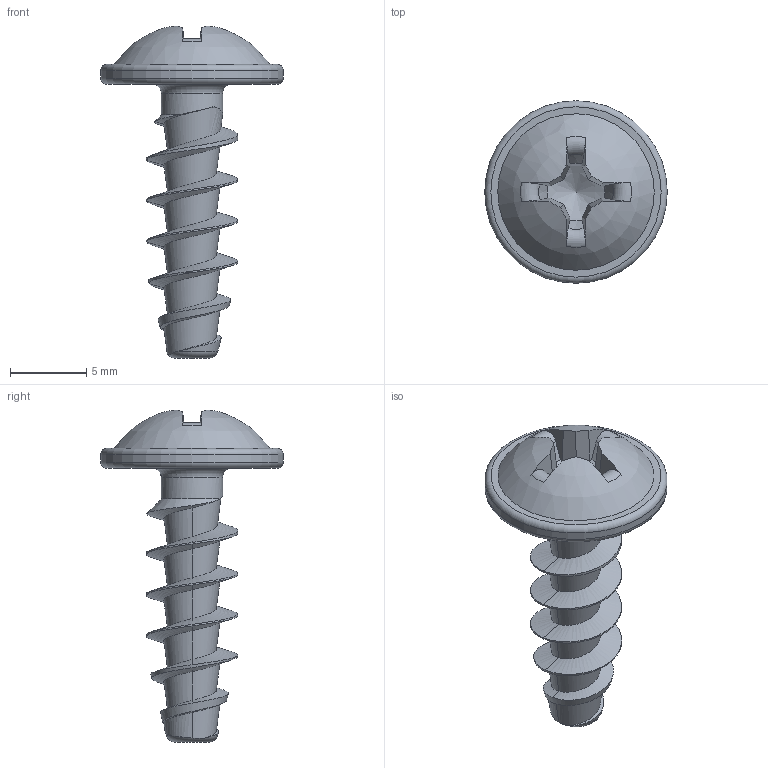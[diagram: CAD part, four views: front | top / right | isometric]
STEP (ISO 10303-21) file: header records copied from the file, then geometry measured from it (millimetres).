
FILE_DESCRIPTION(/* description */ (''),/* implementation_level */ '2;1');
FILE_NAME(/* name */ 'KN1031-Neu-STS-60x18-H3.step',/* time_stamp */ '2017-10-12T13:18:16+02:00',/* author */ (''),/* organization */ (''),/* preprocessor_version */ 'ST-DEVELOPER v16',/* originating_system */ 'SIEMENS PLM Software NX 10.0',/* authorisation */ '');
FILE_SCHEMA (('AUTOMOTIVE_DESIGN { 1 0 10303 214 3 1 1 1 }'));
Length unit declared in the file: millimetre
Products named in the file (1): KN1031-Neu-STS-60x18-H3
Bounding box: 12 x 12 x 21.83 mm (x, y, z)
Volume: 453.3 mm3; surface area: 659.6 mm2
Topology: 1 solids, 1 shells, 58 faces, 152 edges, 97 vertices
Faces by surface type: bspline 20, plane 19, torus 8, cone 7, cylinder 3, sphere 1
Full cylindrical faces by diameter (mm): 4.03 x1, 12 x1
Entity records: 3156 total; most frequent: CARTESIAN_POINT 1937, ORIENTED_EDGE 276, DIRECTION 187, EDGE_CURVE 138, VERTEX_POINT 92, AXIS2_PLACEMENT_3D 79, B_SPLINE_CURVE_WITH_KNOTS 69, EDGE_LOOP 67
